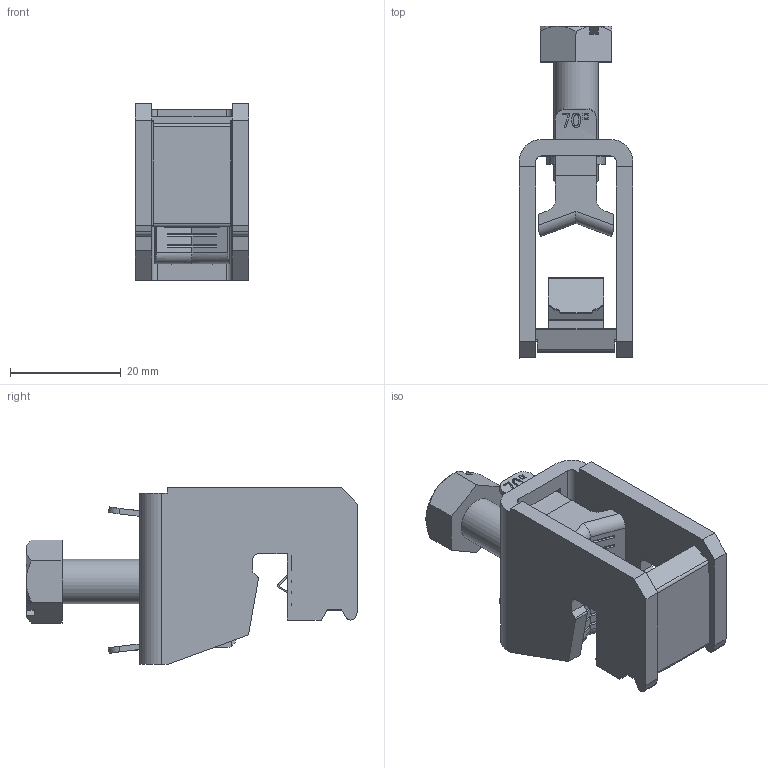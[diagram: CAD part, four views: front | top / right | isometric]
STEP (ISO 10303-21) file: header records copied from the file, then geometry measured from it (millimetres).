
FILE_DESCRIPTION (( 'STEP AP214' ), '1' );
FILE_NAME ('54287.STEP', '2020-11-23T02:48:17', ( '' ), ( '' ), 'SwSTEP 2.0', 'SolidWorks 2017', '' );
FILE_SCHEMA (( 'AUTOMOTIVE_DESIGN' ));
Length unit declared in the file: millimetre
Products named in the file (2): 54287
Bounding box: 20.5 x 60.01 x 32 mm (x, y, z)
Volume: 9648.4 mm3; surface area: 9564.5 mm2
Topology: 4 solids, 4 shells, 411 faces, 1097 edges, 716 vertices
Faces by surface type: plane 286, cylinder 74, bspline 43, cone 8
Full cylindrical faces by diameter (mm): 7 x1, 8 x1, 10.5 x1
Entity records: 19451 total; most frequent: CARTESIAN_POINT 4982, ORIENTED_EDGE 2184, DIRECTION 1850, EDGE_CURVE 1092, LINE 822, VECTOR 822, VERTEX_POINT 716, AXIS2_PLACEMENT_3D 514
